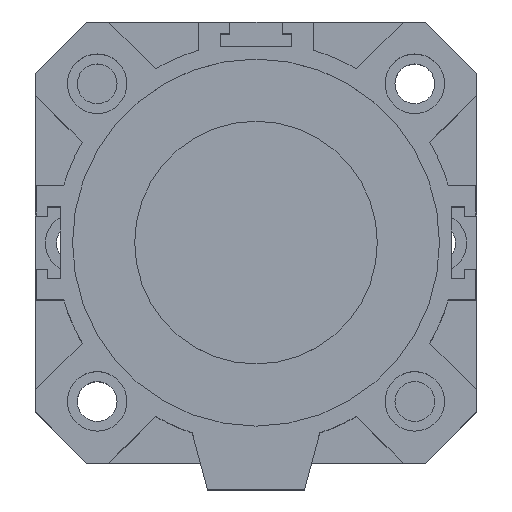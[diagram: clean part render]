
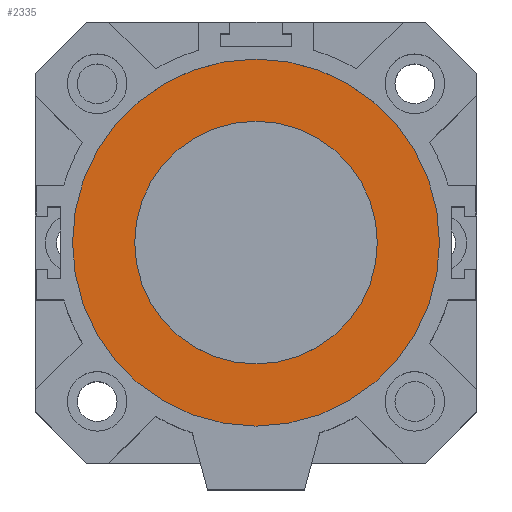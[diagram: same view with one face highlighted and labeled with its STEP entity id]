
A CAD part, top view. The second image highlights one B-rep face of the part: STEP entity #2335.
In plain terms, the highlighted planar face has unit normal (0, 0, 1).
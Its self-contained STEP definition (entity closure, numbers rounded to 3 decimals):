
#449=PLANE('',#2486);
#547=FACE_BOUND('',#766,.T.);
#548=FACE_BOUND('',#767,.T.);
#766=EDGE_LOOP('',(#1592));
#767=EDGE_LOOP('',(#1593));
#977=CIRCLE('',#2481,27.5);
#979=CIRCLE('',#2484,41.6);
#1065=VERTEX_POINT('',#3388);
#1067=VERTEX_POINT('',#3393);
#1287=EDGE_CURVE('',#1065,#1065,#977,.T.);
#1289=EDGE_CURVE('',#1067,#1067,#979,.T.);
#1592=ORIENTED_EDGE('',*,*,#1287,.F.);
#1593=ORIENTED_EDGE('',*,*,#1289,.F.);
#2335=ADVANCED_FACE('',(#547,#548),#449,.T.);
#2481=AXIS2_PLACEMENT_3D('',#3389,#2720,#2721);
#2484=AXIS2_PLACEMENT_3D('',#3394,#2726,#2727);
#2486=AXIS2_PLACEMENT_3D('',#3397,#2730,#2731);
#2720=DIRECTION('center_axis',(0.,0.,1.));
#2721=DIRECTION('ref_axis',(-1.,0.,0.));
#2726=DIRECTION('center_axis',(0.,0.,-1.));
#2727=DIRECTION('ref_axis',(-1.,0.,0.));
#2730=DIRECTION('center_axis',(0.,0.,1.));
#2731=DIRECTION('ref_axis',(1.,0.,0.));
#3388=CARTESIAN_POINT('',(27.5,0.,22.));
#3389=CARTESIAN_POINT('Origin',(0.,0.,22.));
#3393=CARTESIAN_POINT('',(41.6,0.,22.));
#3394=CARTESIAN_POINT('Origin',(0.,0.,22.));
#3397=CARTESIAN_POINT('Origin',(0.,0.,
22.));
